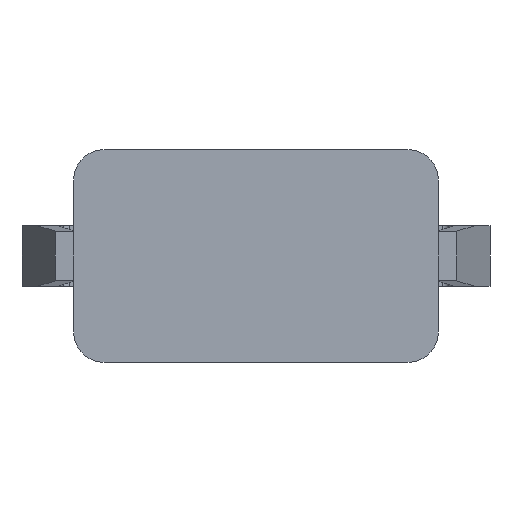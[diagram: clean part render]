
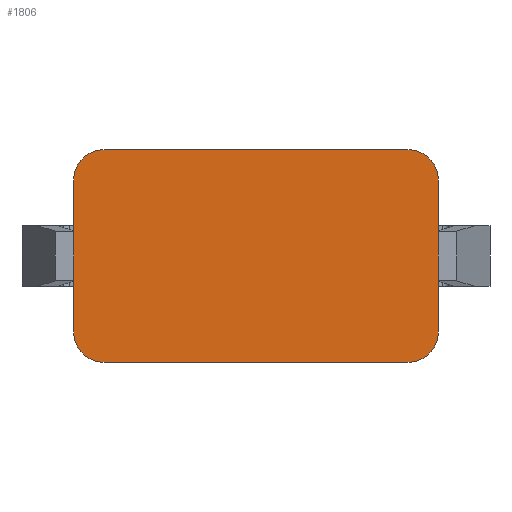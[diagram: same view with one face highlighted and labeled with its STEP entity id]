
A CAD part, front view. The second image highlights one B-rep face of the part: STEP entity #1806.
In plain terms, the highlighted planar face has unit normal (0, -1, 0).
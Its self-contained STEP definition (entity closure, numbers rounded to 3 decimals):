
#167=CARTESIAN_POINT('',(-2.5,-3.1,1.25));
#168=DIRECTION('',(0.,-1.,0.));
#169=DIRECTION('',(0.,0.,1.));
#170=AXIS2_PLACEMENT_3D('',#167,#168,#169);
#175=DIRECTION('',(1.,0.,0.));
#176=VECTOR('',#175,5.);
#177=CARTESIAN_POINT('',(-2.5,-3.1,1.75));
#178=LINE('',#177,#176);
#182=CARTESIAN_POINT('',(2.5,-3.1,1.25));
#183=DIRECTION('',(0.,-1.,0.));
#184=DIRECTION('',(1.,0.,0.));
#185=AXIS2_PLACEMENT_3D('',#182,#183,#184);
#190=DIRECTION('',(0.,0.,-1.));
#191=VECTOR('',#190,2.5);
#192=CARTESIAN_POINT('',(3.,-3.1,1.25));
#193=LINE('',#192,#191);
#197=CARTESIAN_POINT('',(2.5,-3.1,-1.25));
#198=DIRECTION('',(0.,-1.,0.));
#199=DIRECTION('',(0.,0.,-1.));
#200=AXIS2_PLACEMENT_3D('',#197,#198,#199);
#205=DIRECTION('',(-1.,0.,0.));
#206=VECTOR('',#205,5.);
#207=CARTESIAN_POINT('',(2.5,-3.1,-1.75));
#208=LINE('',#207,#206);
#212=CARTESIAN_POINT('',(-2.5,-3.1,-1.25));
#213=DIRECTION('',(0.,-1.,0.));
#214=DIRECTION('',(-1.,0.,0.));
#215=AXIS2_PLACEMENT_3D('',#212,#213,#214);
#220=DIRECTION('',(0.,0.,1.));
#221=VECTOR('',#220,2.5);
#222=CARTESIAN_POINT('',(-3.,-3.1,-1.25));
#223=LINE('',#222,#221);
#1539=CARTESIAN_POINT('',(-2.5,-3.1,1.75));
#1540=CARTESIAN_POINT('',(-3.,-3.1,1.25));
#1541=VERTEX_POINT('',#1539);
#1542=VERTEX_POINT('',#1540);
#1547=CARTESIAN_POINT('',(3.,-3.1,1.25));
#1548=CARTESIAN_POINT('',(2.5,-3.1,1.75));
#1549=VERTEX_POINT('',#1547);
#1550=VERTEX_POINT('',#1548);
#1555=CARTESIAN_POINT('',(-3.,-3.1,-1.25));
#1556=CARTESIAN_POINT('',(-2.5,-3.1,-1.75));
#1557=VERTEX_POINT('',#1555);
#1558=VERTEX_POINT('',#1556);
#1563=CARTESIAN_POINT('',(2.5,-3.1,-1.75));
#1564=CARTESIAN_POINT('',(3.,-3.1,-1.25));
#1565=VERTEX_POINT('',#1563);
#1566=VERTEX_POINT('',#1564);
#1784=CARTESIAN_POINT('',(0.,-3.1,0.));
#1785=DIRECTION('',(0.,1.,0.));
#1786=DIRECTION('',(1.,0.,0.));
#1787=AXIS2_PLACEMENT_3D('',#1784,#1785,#1786);
#1788=PLANE('',#1787);
#1789=ORIENTED_EDGE('',*,*,#1774,.F.);
#1791=ORIENTED_EDGE('',*,*,#1790,.T.);
#1793=ORIENTED_EDGE('',*,*,#1792,.F.);
#1795=ORIENTED_EDGE('',*,*,#1794,.T.);
#1797=ORIENTED_EDGE('',*,*,#1796,.F.);
#1799=ORIENTED_EDGE('',*,*,#1798,.T.);
#1801=ORIENTED_EDGE('',*,*,#1800,.F.);
#1803=ORIENTED_EDGE('',*,*,#1802,.T.);
#1804=EDGE_LOOP('',(#1789,#1791,#1793,#1795,#1797,#1799,#1801,#1803));
#1805=FACE_OUTER_BOUND('',#1804,.F.);
#171=CIRCLE('',#170,0.5);
#186=CIRCLE('',#185,0.5);
#201=CIRCLE('',#200,0.5);
#216=CIRCLE('',#215,0.5);
#1774=EDGE_CURVE('',#1541,#1542,#171,.T.);
#1790=EDGE_CURVE('',#1541,#1550,#178,.T.);
#1792=EDGE_CURVE('',#1549,#1550,#186,.T.);
#1794=EDGE_CURVE('',#1549,#1566,#193,.T.);
#1796=EDGE_CURVE('',#1565,#1566,#201,.T.);
#1798=EDGE_CURVE('',#1565,#1558,#208,.T.);
#1800=EDGE_CURVE('',#1557,#1558,#216,.T.);
#1802=EDGE_CURVE('',#1557,#1542,#223,.T.);
#1806=ADVANCED_FACE('',(#1805),#1788,.F.);
